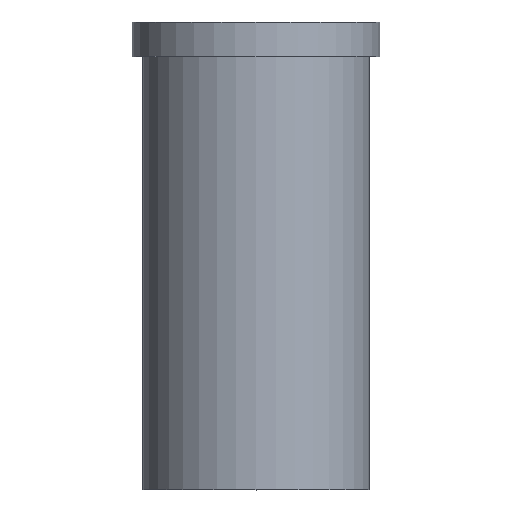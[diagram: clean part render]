
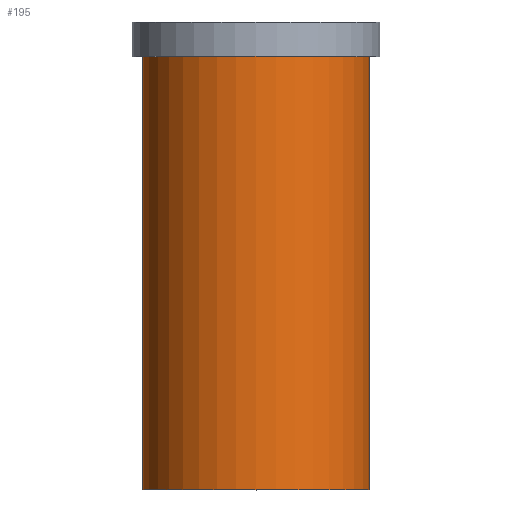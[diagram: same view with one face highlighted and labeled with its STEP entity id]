
A CAD part, top view. The second image highlights one B-rep face of the part: STEP entity #195.
In plain terms, the highlighted cylindrical face has radius 33 mm (diameter 66 mm), a full revolution.
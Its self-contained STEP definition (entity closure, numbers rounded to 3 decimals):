
#32=ORIENTED_EDGE('',*,*,#50,.T.);
#33=ORIENTED_EDGE('',*,*,#49,.F.);
#49=EDGE_CURVE('',#59,#59,#69,.T.);
#50=EDGE_CURVE('',#60,#60,#70,.T.);
#59=VERTEX_POINT('',#280);
#60=VERTEX_POINT('',#283);
#69=CIRCLE('',#213,33.);
#70=CIRCLE('',#215,33.);
#82=EDGE_LOOP('',(#32));
#83=EDGE_LOOP('',(#33));
#102=FACE_BOUND('',#82,.T.);
#103=FACE_BOUND('',#83,.T.);
#117=CYLINDRICAL_SURFACE('',#214,33.);
#195=ADVANCED_FACE('',(#102,#103),#117,.T.);
#213=AXIS2_PLACEMENT_3D('',#279,#241,#242);
#214=AXIS2_PLACEMENT_3D('',#281,#243,#244);
#215=AXIS2_PLACEMENT_3D('',#282,#245,#246);
#241=DIRECTION('',(0.,-1.,0.));
#242=DIRECTION('',(0.,0.,-1.));
#243=DIRECTION('',(0.,-1.,0.));
#244=DIRECTION('',(0.,0.,-1.));
#245=DIRECTION('',(0.,-1.,0.));
#246=DIRECTION('',(0.,0.,-1.));
#279=CARTESIAN_POINT('',(0.,0.,0.));
#280=CARTESIAN_POINT('',(0.,0.,-33.));
#281=CARTESIAN_POINT('',(0.,0.,0.));
#282=CARTESIAN_POINT('',(0.,126.,0.));
#283=CARTESIAN_POINT('',(0.,126.,-33.));
